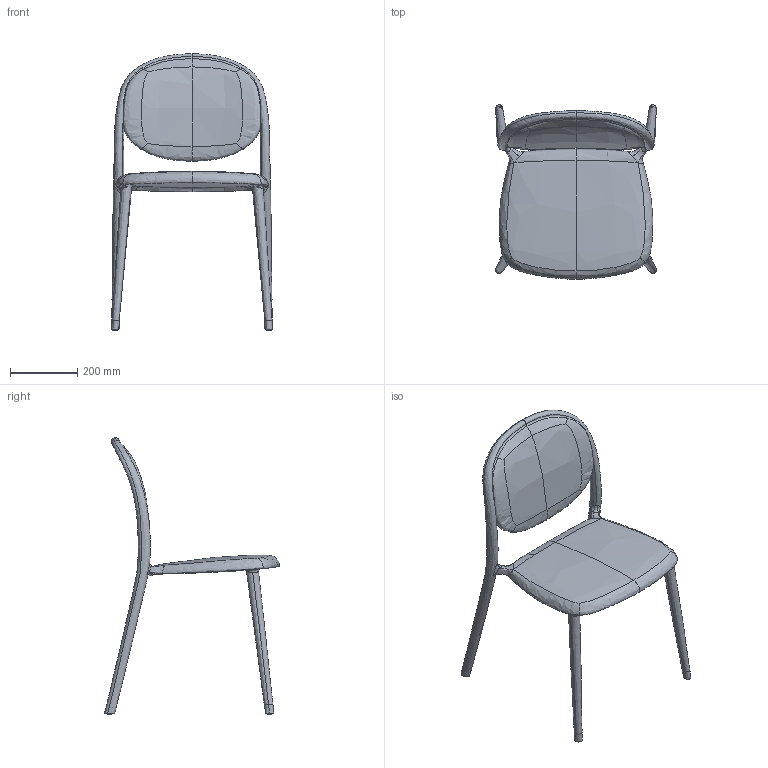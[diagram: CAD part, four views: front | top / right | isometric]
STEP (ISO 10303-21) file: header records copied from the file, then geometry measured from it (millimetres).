
FILE_DESCRIPTION(/* description */ (''),/* implementation_level */ '2;1');
FILE_NAME(/* name */ 'KINOSH~1',/* time_stamp */ '2024-09-30T11:37:11+09:00',/* author */ (''),/* organization */ (''),/* preprocessor_version */ 'ST-DEVELOPER v16.5',/* originating_system */ '',/* authorisation */ '');
FILE_SCHEMA (('AUTOMOTIVE_DESIGN'));
Length unit declared in the file: millimetre
Products named in the file (1): Document
Bounding box: 477.12 x 518.56 x 820.09 mm (x, y, z)
Surface area: 834723.5 mm2 (no closed solid volume)
Topology: 0 solids, 1 shells, 92 faces, 228 edges, 136 vertices
Faces by surface type: bspline 84, plane 8
Entity records: 20023 total; most frequent: CARTESIAN_POINT 18630, ORIENTED_EDGE 440, EDGE_CURVE 228, B_SPLINE_CURVE_WITH_KNOTS 188, VERTEX_POINT 136, EDGE_LOOP 96, ADVANCED_FACE 92, FACE_OUTER_BOUND 92
